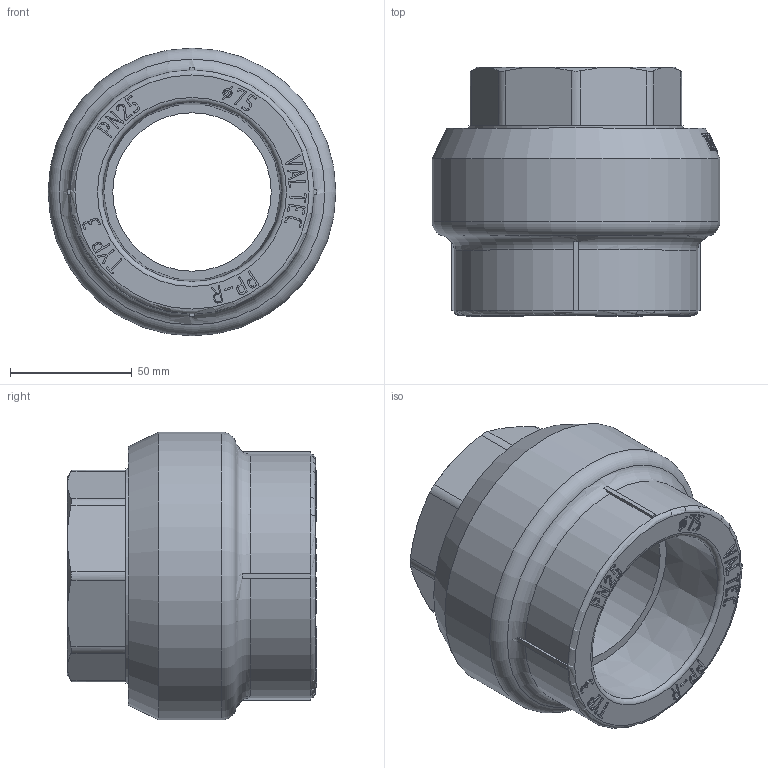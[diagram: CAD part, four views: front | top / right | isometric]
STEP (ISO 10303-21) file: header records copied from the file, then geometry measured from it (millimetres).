
FILE_DESCRIPTION(('STEP AP203'), '1');
FILE_NAME('ÂÐ.753153.020 - VTp.706.0.07510', '', ('UNSPECIFIED'), ('UNSPECIFIED'), 'C3D Converter', 'C3D Toolkit', '');
FILE_SCHEMA(('CONFIG_CONTROL_DESIGN'));
Length unit declared in the file: millimetre
Products named in the file (4): ВР.753153.020; ВР.302639.023.000; ВР.753154.021
Assembly tree (3 placements, depth 3):
  ВР.753153.020
    ВР.302639.023.000
      ВР.753154.021
      (unnamed)
Bounding box: 118 x 102.3 x 118 mm (x, y, z)
Volume: 478631.8 mm3; surface area: 128289.6 mm2
Topology: 3 solids, 3 shells, 857 faces, 2366 edges, 1572 vertices
Faces by surface type: extrusion 429, plane 367, cylinder 36, cone 20, torus 5
Full cylindrical faces by diameter (mm): 65 x1, 72.227 x1, 81 x2, 87 x8, 88 x1, 96 x10, 118 x1
Entity records: 32268 total; most frequent: CARTESIAN_POINT 12186, ORIENTED_EDGE 4640, DIRECTION 2772, EDGE_CURVE 2320, VECTOR 1608, VERTEX_POINT 1561, B_SPLINE_CURVE_WITH_KNOTS 1421, LINE 1179
